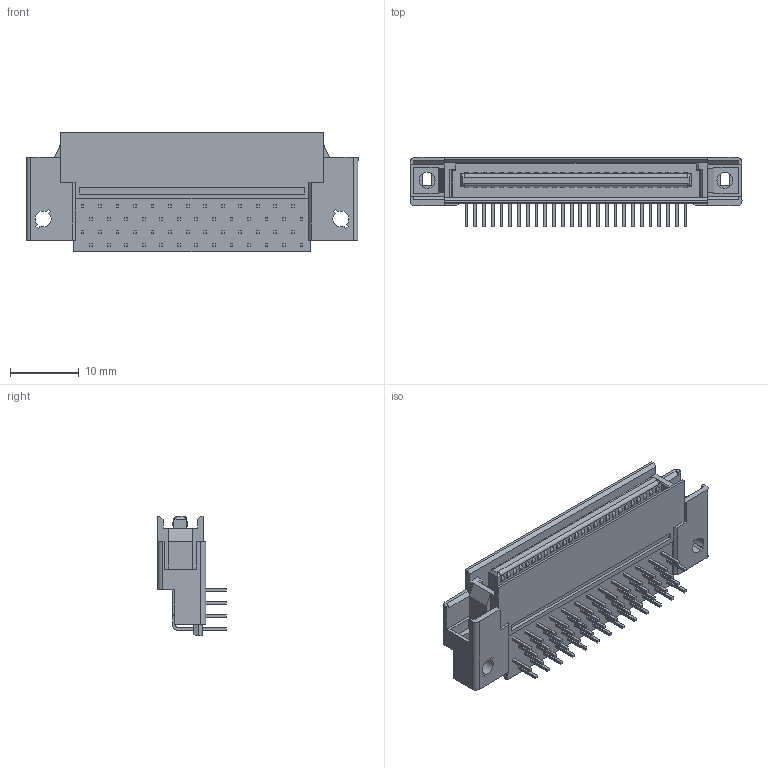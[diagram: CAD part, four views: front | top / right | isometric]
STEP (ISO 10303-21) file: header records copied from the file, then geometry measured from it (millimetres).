
FILE_DESCRIPTION(('Creo Elements/Direct Modeling STEP Export'),'2;1');
FILE_NAME('P3D810_8830E-052-170L-F.stp','2023-03-29T15:31:59',(''),(''),'Creo Elements/Direct Modeling STEP processor for AP214 (Solid Model)','Creo Elements/Direct Modeling 20.4A 18-Oct-2021 (C) Parametric Technology GmbH','');
FILE_SCHEMA(('AUTOMOTIVE_DESIGN { 1 0 10303 214 1 1 1 1 }'));
Length unit declared in the file: millimetre
Products named in the file (2): 8830E-052-170L-F
Assembly tree (1 placements, depth 2):
  8830E-052-170L-F
    8830E-052-170L-F
Bounding box: 48.15 x 10 x 17.4 mm (x, y, z)
Volume: 2406.9 mm3; surface area: 4789.9 mm2
Topology: 1 solids, 1 shells, 1890 faces, 5011 edges, 3332 vertices
Faces by surface type: plane 1720, cylinder 170
Entity records: 56345 total; most frequent: ORIENTED_EDGE 10022, CARTESIAN_POINT 9874, DIRECTION 8667, EDGE_CURVE 5011, VECTOR 4417, LINE 4417, VERTEX_POINT 3332, EDGE_LOOP 2211
